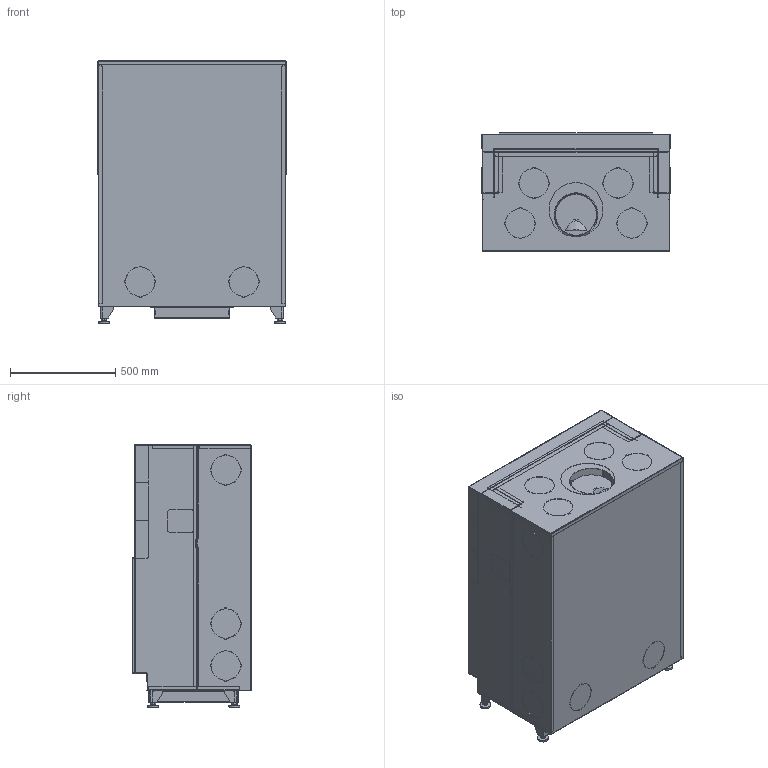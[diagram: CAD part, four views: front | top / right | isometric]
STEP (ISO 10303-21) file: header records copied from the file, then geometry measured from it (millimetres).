
FILE_DESCRIPTION(/* description */ ('','CAx-IF Rec.Pracs.---Representation and Presentation of Product Manufacturing Information (PMI)---3.8---2014-02-18'),/* implementation_level */ '2;1');
FILE_NAME(/* name */ 'C:\ADSK_DM_WS\CAD_3D\03 Geraete\Violino 55x73\Zeichnungen\Violino_55x73_mit_Mantel_Gen1_2016-00439.stp',/* time_stamp */ '2016-03-08T13:58:52+01:00',/* author */ ('cpi'),/* organization */ (''),/* preprocessor_version */ 'ST-DEVELOPER v16.1',/* originating_system */ 'Autodesk Inventor 2016',/* authorisation */ '');
FILE_SCHEMA (('AP242_MANAGED_MODEL_BASED_3D_ENGINEERING_MIM_LF { 1 0 10303 442 1 1 4 }'));
Products named in the file (7): 2016-00410; 2016-00407; 2016-00412; 2016-00437; 2016-00411; 2016-00413; 2016-00439
Assembly tree (6 placements, depth 3):
  2016-00439
    2016-00413
      2016-00410
      2016-00407
      2016-00411
      2016-00412
    2016-00437
Bounding box: 896 x 564.5 x 1248 mm (x, y, z)
Volume: 79799211.2 mm3; surface area: 19802358.6 mm2
Topology: 15 solids, 18 shells, 3913 faces, 10836 edges, 6831 vertices
Faces by surface type: plane 2411, cylinder 1283, bspline 129, cone 86, torus 3, sphere 1
Full cylindrical faces by diameter (mm): 4.8 x1, 5.6 x1, 6 x2, 7 x2, 8 x2, 10 x7, 16 x12, 30 x4, 333 x1, 339 x1
Entity records: 130525 total; most frequent: CARTESIAN_POINT 26830, ORIENTED_EDGE 21594, DIRECTION 20423, EDGE_CURVE 10765, LINE 7477, VECTOR 7477, VERTEX_POINT 6817, AXIS2_PLACEMENT_3D 6473
